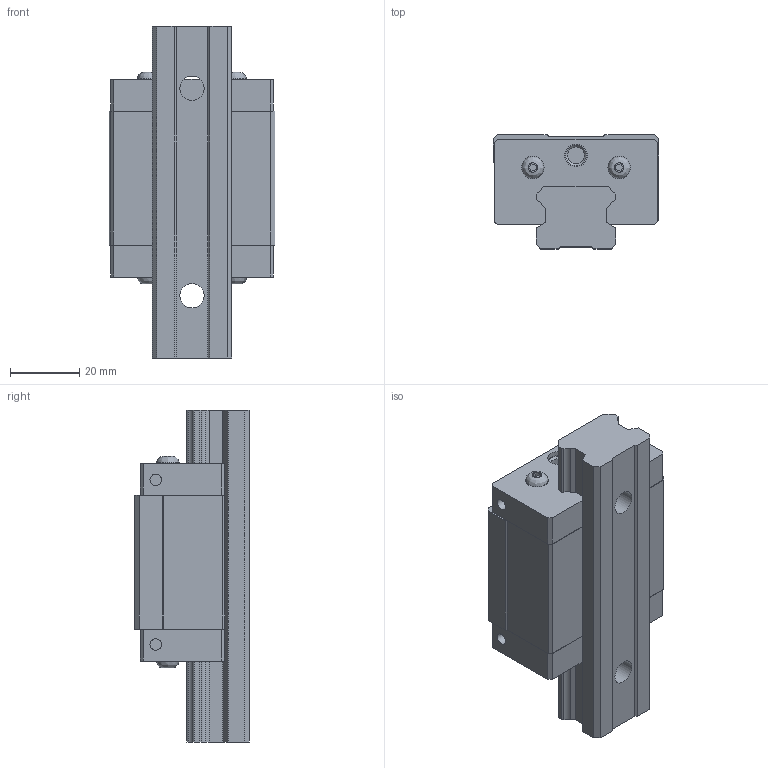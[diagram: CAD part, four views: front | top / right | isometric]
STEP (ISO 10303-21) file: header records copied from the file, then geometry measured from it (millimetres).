
FILE_DESCRIPTION( ( 'STEP AP214' ), '1' );
FILE_NAME( 'C:/Users/mimi4/OneDrive/Desktop/BSQ賅筐葭/MCS/MCS25SN.stp', '2019-11-25T10:35:29', ( ' ' ), ( ' ' ), 'XStep 1.0', 'VISICAD', ' ' );
FILE_SCHEMA( ( 'automotive_design' ) );
Length unit declared in the file: metre
Products named in the file (2): 1; 2
Bounding box: 48 x 33 x 96 mm (x, y, z)
Volume: 87605.8 mm3; surface area: 23189 mm2
Topology: 2 solids, 6 shells, 170 faces, 415 edges, 275 vertices
Faces by surface type: plane 128, cylinder 32, cone 6, bspline 4
Full cylindrical faces by diameter (mm): 3.3 x4, 4.917 x4, 6.5 x10, 7 x2, 11 x2
Entity records: 6220 total; most frequent: CARTESIAN_POINT 926, DIRECTION 784, ORIENTED_EDGE 752, EDGE_CURVE 376, LINE 304, VECTOR 304, VERTEX_POINT 270, AXIS2_PLACEMENT_3D 240
